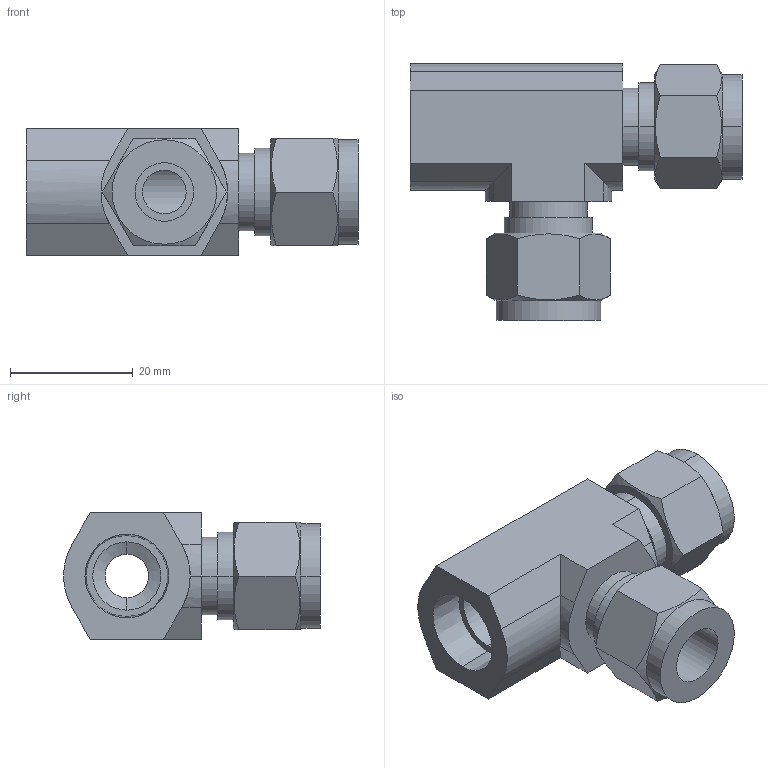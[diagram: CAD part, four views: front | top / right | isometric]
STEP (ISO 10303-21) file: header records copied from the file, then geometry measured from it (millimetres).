
FILE_DESCRIPTION (( 'STEP AP203' ), '1' );
FILE_NAME ('DTF 06-04 SS.STEP', '2009-09-08T09:44:38', ( ' ' ), ( '' ), 'SwSTEP 2.0', 'SolidWorks 2008', '' );
FILE_SCHEMA (( 'CONFIG_CONTROL_DESIGN' ));
Length unit declared in the file: millimetre
Products named in the file (1): DTF 06-04 SS
Bounding box: 54 x 41.8 x 20.6 mm (x, y, z)
Volume: 16018.9 mm3; surface area: 8250 mm2
Topology: 1 solids, 1 shells, 76 faces, 185 edges, 120 vertices
Faces by surface type: plane 36, cylinder 28, cone 12
Entity records: 2581 total; most frequent: CARTESIAN_POINT 727, ORIENTED_EDGE 370, DIRECTION 361, EDGE_CURVE 185, AXIS2_PLACEMENT_3D 136, VERTEX_POINT 120, EDGE_LOOP 89, VECTOR 89
